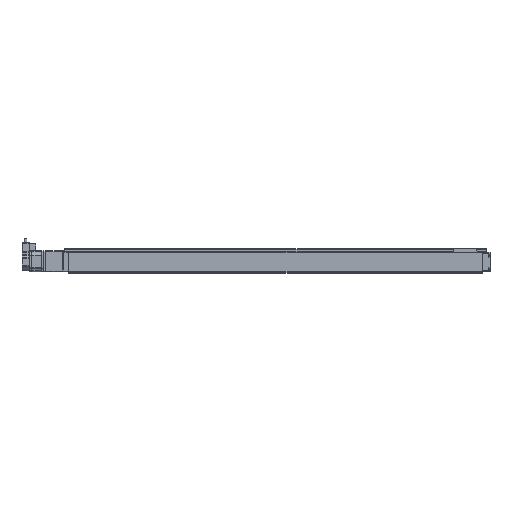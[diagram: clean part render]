
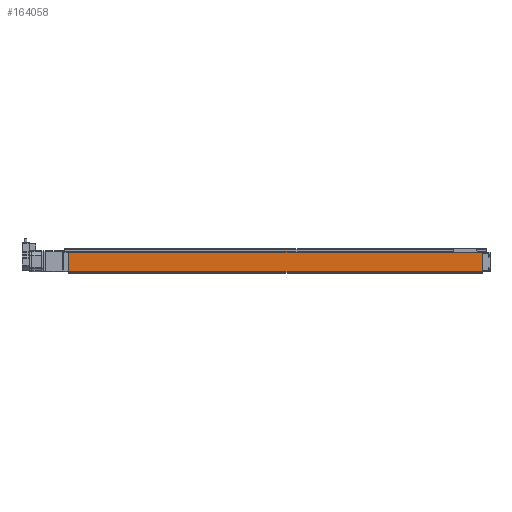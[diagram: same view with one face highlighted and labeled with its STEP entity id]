
A CAD part, front view. The second image highlights one B-rep face of the part: STEP entity #164058.
In plain terms, the highlighted planar face has unit normal (0, -1, 0).
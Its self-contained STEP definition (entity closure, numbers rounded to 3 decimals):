
#164058 = ADVANCED_FACE('',(#164059),#164073,.T.);
#164059 = FACE_BOUND('',#164060,.T.);
#164060 = EDGE_LOOP('',(#164061,#164096,#164124,#164152));
#164061 = ORIENTED_EDGE('',*,*,#164062,.T.);
#164062 = EDGE_CURVE('',#164063,#164065,#164067,.T.);
#164063 = VERTEX_POINT('',#164064);
#164064 = CARTESIAN_POINT('',(1576.173,-709.318,181.5));
#164065 = VERTEX_POINT('',#164066);
#164066 = CARTESIAN_POINT('',(1576.173,-709.318,232.5));
#164067 = SURFACE_CURVE('',#164068,(#164072,#164084),.PCURVE_S1.);
#164068 = LINE('',#164069,#164070);
#164069 = CARTESIAN_POINT('',(1576.173,-709.318,207.));
#164070 = VECTOR('',#164071,1.);
#164071 = DIRECTION('',(0.,0.,1.));
#164072 = PCURVE('',#164073,#164078);
#164073 = PLANE('',#164074);
#164074 = AXIS2_PLACEMENT_3D('',#164075,#164076,#164077);
#164075 = CARTESIAN_POINT('',(486.173,-709.318,181.5));
#164076 = DIRECTION('',(0.,-1.,0.));
#164077 = DIRECTION('',(1.,0.,0.));
#164078 = DEFINITIONAL_REPRESENTATION('',(#164079),#164083);
#164079 = LINE('',#164080,#164081);
#164080 = CARTESIAN_POINT('',(1090.,25.5));
#164081 = VECTOR('',#164082,1.);
#164082 = DIRECTION('',(0.,1.));
#164083 = ( GEOMETRIC_REPRESENTATION_CONTEXT(2) 
PARAMETRIC_REPRESENTATION_CONTEXT() REPRESENTATION_CONTEXT('2D SPACE',''
  ) );
#164084 = PCURVE('',#164085,#164090);
#164085 = PLANE('',#164086);
#164086 = AXIS2_PLACEMENT_3D('',#164087,#164088,#164089);
#164087 = CARTESIAN_POINT('',(1576.173,-629.318,181.5));
#164088 = DIRECTION('',(-1.,0.,0.));
#164089 = DIRECTION('',(0.,-1.,0.));
#164090 = DEFINITIONAL_REPRESENTATION('',(#164091),#164095);
#164091 = LINE('',#164092,#164093);
#164092 = CARTESIAN_POINT('',(80.,25.5));
#164093 = VECTOR('',#164094,1.);
#164094 = DIRECTION('',(0.,1.));
#164095 = ( GEOMETRIC_REPRESENTATION_CONTEXT(2) 
PARAMETRIC_REPRESENTATION_CONTEXT() REPRESENTATION_CONTEXT('2D SPACE',''
  ) );
#164096 = ORIENTED_EDGE('',*,*,#164097,.T.);
#164097 = EDGE_CURVE('',#164065,#164098,#164100,.T.);
#164098 = VERTEX_POINT('',#164099);
#164099 = CARTESIAN_POINT('',(486.173,-709.318,232.5));
#164100 = SURFACE_CURVE('',#164101,(#164105,#164112),.PCURVE_S1.);
#164101 = LINE('',#164102,#164103);
#164102 = CARTESIAN_POINT('',(1031.173,-709.318,232.5));
#164103 = VECTOR('',#164104,1.);
#164104 = DIRECTION('',(-1.,0.,0.));
#164105 = PCURVE('',#164073,#164106);
#164106 = DEFINITIONAL_REPRESENTATION('',(#164107),#164111);
#164107 = LINE('',#164108,#164109);
#164108 = CARTESIAN_POINT('',(545.,51.));
#164109 = VECTOR('',#164110,1.);
#164110 = DIRECTION('',(-1.,0.));
#164111 = ( GEOMETRIC_REPRESENTATION_CONTEXT(2) 
PARAMETRIC_REPRESENTATION_CONTEXT() REPRESENTATION_CONTEXT('2D SPACE',''
  ) );
#164112 = PCURVE('',#164113,#164118);
#164113 = PLANE('',#164114);
#164114 = AXIS2_PLACEMENT_3D('',#164115,#164116,#164117);
#164115 = CARTESIAN_POINT('',(486.173,-709.318,232.5));
#164116 = DIRECTION('',(0.,0.,-1.));
#164117 = DIRECTION('',(0.,1.,0.));
#164118 = DEFINITIONAL_REPRESENTATION('',(#164119),#164123);
#164119 = LINE('',#164120,#164121);
#164120 = CARTESIAN_POINT('',(0.,545.));
#164121 = VECTOR('',#164122,1.);
#164122 = DIRECTION('',(0.,-1.));
#164123 = ( GEOMETRIC_REPRESENTATION_CONTEXT(2) 
PARAMETRIC_REPRESENTATION_CONTEXT() REPRESENTATION_CONTEXT('2D SPACE',''
  ) );
#164124 = ORIENTED_EDGE('',*,*,#164125,.T.);
#164125 = EDGE_CURVE('',#164098,#164126,#164128,.T.);
#164126 = VERTEX_POINT('',#164127);
#164127 = CARTESIAN_POINT('',(486.173,-709.318,181.5));
#164128 = SURFACE_CURVE('',#164129,(#164133,#164140),.PCURVE_S1.);
#164129 = LINE('',#164130,#164131);
#164130 = CARTESIAN_POINT('',(486.173,-709.318,207.));
#164131 = VECTOR('',#164132,1.);
#164132 = DIRECTION('',(0.,0.,-1.));
#164133 = PCURVE('',#164073,#164134);
#164134 = DEFINITIONAL_REPRESENTATION('',(#164135),#164139);
#164135 = LINE('',#164136,#164137);
#164136 = CARTESIAN_POINT('',(0.,25.5));
#164137 = VECTOR('',#164138,1.);
#164138 = DIRECTION('',(0.,-1.));
#164139 = ( GEOMETRIC_REPRESENTATION_CONTEXT(2) 
PARAMETRIC_REPRESENTATION_CONTEXT() REPRESENTATION_CONTEXT('2D SPACE',''
  ) );
#164140 = PCURVE('',#164141,#164146);
#164141 = PLANE('',#164142);
#164142 = AXIS2_PLACEMENT_3D('',#164143,#164144,#164145);
#164143 = CARTESIAN_POINT('',(486.173,-709.318,181.5));
#164144 = DIRECTION('',(1.,0.,0.));
#164145 = DIRECTION('',(0.,1.,0.));
#164146 = DEFINITIONAL_REPRESENTATION('',(#164147),#164151);
#164147 = LINE('',#164148,#164149);
#164148 = CARTESIAN_POINT('',(0.,25.5));
#164149 = VECTOR('',#164150,1.);
#164150 = DIRECTION('',(0.,-1.));
#164151 = ( GEOMETRIC_REPRESENTATION_CONTEXT(2) 
PARAMETRIC_REPRESENTATION_CONTEXT() REPRESENTATION_CONTEXT('2D SPACE',''
  ) );
#164152 = ORIENTED_EDGE('',*,*,#164153,.T.);
#164153 = EDGE_CURVE('',#164126,#164063,#164154,.T.);
#164154 = SURFACE_CURVE('',#164155,(#164159,#164166),.PCURVE_S1.);
#164155 = LINE('',#164156,#164157);
#164156 = CARTESIAN_POINT('',(1031.173,-709.318,181.5));
#164157 = VECTOR('',#164158,1.);
#164158 = DIRECTION('',(1.,0.,0.));
#164159 = PCURVE('',#164073,#164160);
#164160 = DEFINITIONAL_REPRESENTATION('',(#164161),#164165);
#164161 = LINE('',#164162,#164163);
#164162 = CARTESIAN_POINT('',(545.,0.));
#164163 = VECTOR('',#164164,1.);
#164164 = DIRECTION('',(1.,0.));
#164165 = ( GEOMETRIC_REPRESENTATION_CONTEXT(2) 
PARAMETRIC_REPRESENTATION_CONTEXT() REPRESENTATION_CONTEXT('2D SPACE',''
  ) );
#164166 = PCURVE('',#164167,#164172);
#164167 = PLANE('',#164168);
#164168 = AXIS2_PLACEMENT_3D('',#164169,#164170,#164171);
#164169 = CARTESIAN_POINT('',(486.173,-629.318,181.5));
#164170 = DIRECTION('',(0.,0.,1.));
#164171 = DIRECTION('',(0.,-1.,0.));
#164172 = DEFINITIONAL_REPRESENTATION('',(#164173),#164177);
#164173 = LINE('',#164174,#164175);
#164174 = CARTESIAN_POINT('',(80.,545.));
#164175 = VECTOR('',#164176,1.);
#164176 = DIRECTION('',(0.,1.));
#164177 = ( GEOMETRIC_REPRESENTATION_CONTEXT(2) 
PARAMETRIC_REPRESENTATION_CONTEXT() REPRESENTATION_CONTEXT('2D SPACE',''
  ) );
